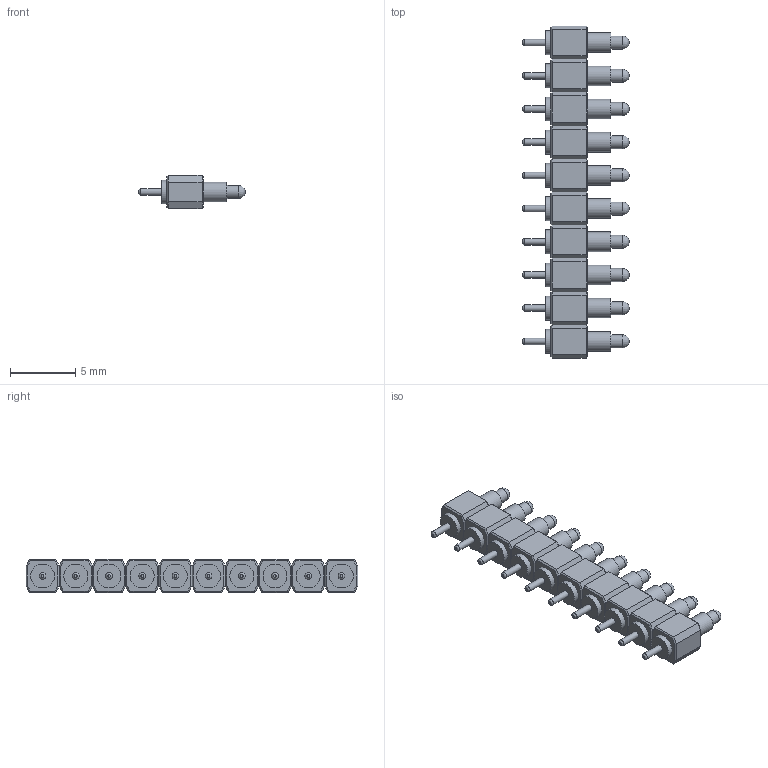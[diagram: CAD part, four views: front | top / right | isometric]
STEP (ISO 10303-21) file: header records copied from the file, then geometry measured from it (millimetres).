
FILE_DESCRIPTION(('FreeCAD Model'),'2;1');
FILE_NAME('Open CASCADE Shape Model','2024-10-25T12:06:28',('Author'),( ''),'Open CASCADE STEP processor 7.5','FreeCAD','Unknown');
FILE_SCHEMA(('AUTOMOTIVE_DESIGN { 1 0 10303 214 1 1 1 1 }'));
Length unit declared in the file: millimetre
Products named in the file (31): 816-22-010; P131; Body262; Contact129; P129; Body256; Contact130; P137; Body258; Contact131; P132; Body257; Contact136; P141; Body281; Contact137; P133; Body274; Contact139; P135; Body273; Contact138; P143; Body277; Contact140; P138; Body284; Contact141; P139; Body266; Contact135
Assembly tree (30 placements, depth 3):
  816-22-010
    P131
      Body262
      Contact129
    P129
      Body256
      Contact130
    P137
      Body258
      Contact131
    P132
      Body257
      Contact136
    P141
      Body281
      Contact137
    P133
      Body274
      Contact139
    P135
      Body273
      Contact138
    P143
      Body277
      Contact140
    P138
      Body284
      Contact141
    P139
      Body266
      Contact135
Bounding box: 8.15 x 25.4 x 2.54 mm (x, y, z)
Volume: 227.3 mm3; surface area: 825.3 mm2
Topology: 20 solids, 20 shells, 380 faces, 750 edges, 440 vertices
Faces by surface type: plane 310, cylinder 50, revolution 20
Full cylindrical faces by diameter (mm): 0.5 x10, 1 x10, 1.5 x20, 1.83 x10
Entity records: 20129 total; most frequent: CARTESIAN_POINT 3301, DIRECTION 3182, LINE 2010, VECTOR 2010, ORIENTED_EDGE 1500, PCURVE 1500, DEFINITIONAL_REPRESENTATION 1500, EDGE_CURVE 750
